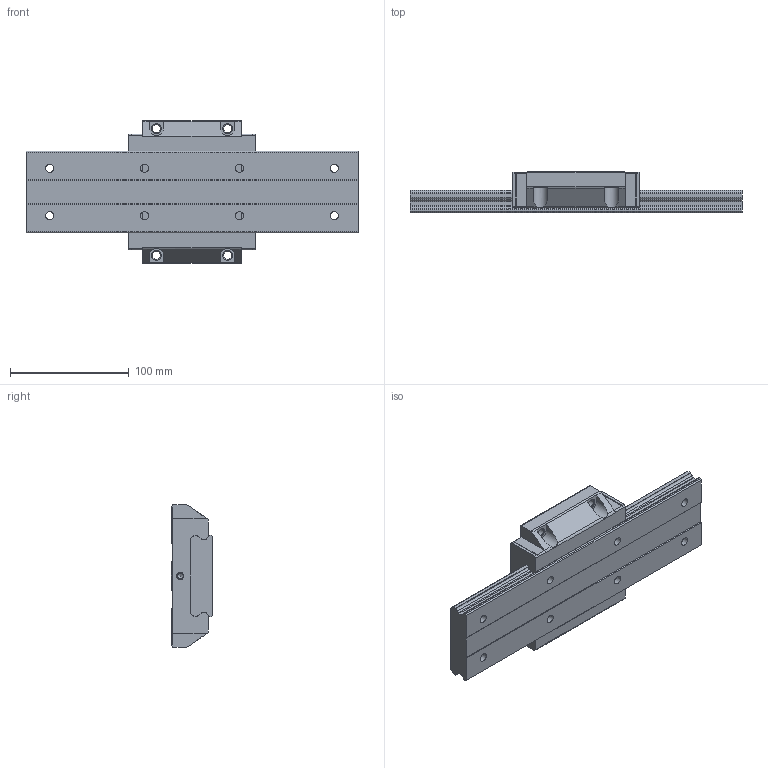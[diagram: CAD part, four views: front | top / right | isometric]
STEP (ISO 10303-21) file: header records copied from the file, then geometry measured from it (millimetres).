
FILE_DESCRIPTION(/* description */ ('STEP AP203'),/* implementation_level */ '2;1');
FILE_NAME(/* name */ 'SHW35CA1SS-280L_G20_0_Without_grease_nipple_86-5_0_0_01',/* time_stamp */ '2024-05-13T09:20:12+02:00',/* author */ ('License CC BY-ND 4.0'),/* organization */ ('CADENAS'),/* preprocessor_version */ 'ST-DEVELOPER v19.3',/* originating_system */ 'PARTsolutions',/* authorisation */ ' ');
FILE_SCHEMA (('CONFIG_CONTROL_DESIGN'));
Length unit declared in the file: millimetre
Products named in the file (4): SHW35CA1SS-280L_G20_0_Without_grease_nipple_86-5_0_0_01; SHW35CA28020 Track; SHW35CASS1 Slide12-50; -SHW_grease_nipple_joint
Assembly tree (3 placements, depth 2):
  SHW35CA1SS-280L_G20_0_Without_grease_nipple_86-5_0_0_01
    SHW35CA28020 Track
    SHW35CASS1 Slide12-50
    -SHW_grease_nipple_joint
Bounding box: 280 x 35 x 120 mm (x, y, z)
Volume: 573745 mm3; surface area: 97557.4 mm2
Topology: 2 solids, 2 shells, 216 faces, 573 edges, 370 vertices
Faces by surface type: plane 134, cylinder 66, cone 16
Full cylindrical faces by diameter (mm): 4.917 x2, 6.8 x6, 7 x8, 11 x8
Entity records: 6554 total; most frequent: DIRECTION 1128, CARTESIAN_POINT 1127, ORIENTED_EDGE 1044, EDGE_CURVE 522, AXIS2_PLACEMENT_3D 390, VERTEX_POINT 360, LINE 348, VECTOR 348
